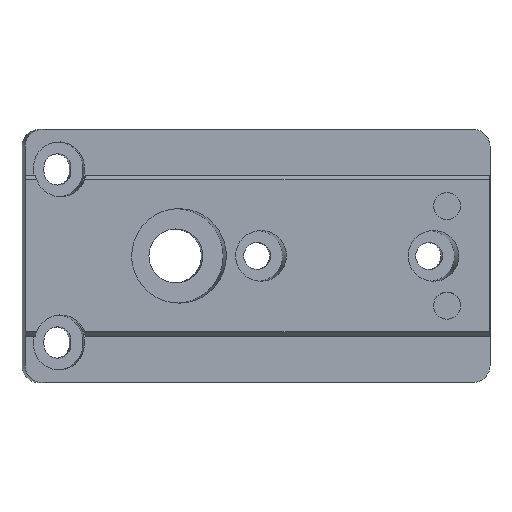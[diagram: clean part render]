
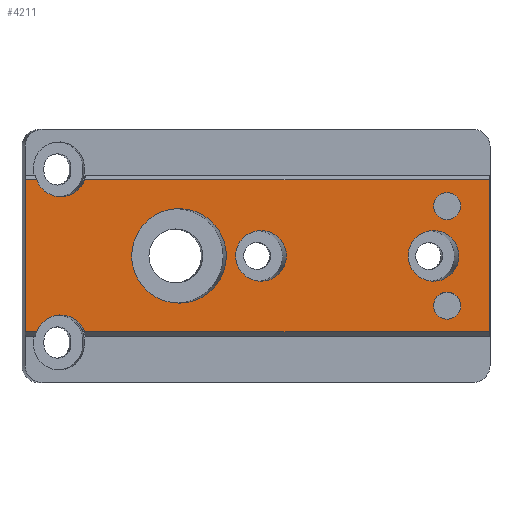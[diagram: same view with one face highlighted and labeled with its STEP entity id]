
A CAD part, top view. The second image highlights one B-rep face of the part: STEP entity #4211.
In plain terms, the highlighted planar face has unit normal (0, 0, 1).
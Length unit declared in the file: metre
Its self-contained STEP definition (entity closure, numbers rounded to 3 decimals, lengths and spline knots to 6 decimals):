
#204=ELLIPSE('',#4481,0.005608,0.0056);
#205=ELLIPSE('',#4482,0.003004,0.003);
#206=ELLIPSE('',#4483,0.003004,0.003);
#207=ELLIPSE('',#4486,0.003004,0.003);
#208=ELLIPSE('',#4487,0.003004,0.003);
#288=CIRCLE('',#4484,0.0016);
#289=CIRCLE('',#4485,0.0016);
#383=ORIENTED_EDGE('',*,*,#1665,.T.);
#384=ORIENTED_EDGE('',*,*,#1666,.T.);
#385=ORIENTED_EDGE('',*,*,#1667,.T.);
#386=ORIENTED_EDGE('',*,*,#1668,.T.);
#387=ORIENTED_EDGE('',*,*,#1669,.T.);
#388=ORIENTED_EDGE('',*,*,#1670,.F.);
#389=ORIENTED_EDGE('',*,*,#1671,.T.);
#390=ORIENTED_EDGE('',*,*,#1672,.F.);
#391=ORIENTED_EDGE('',*,*,#1673,.T.);
#392=ORIENTED_EDGE('',*,*,#1674,.F.);
#393=ORIENTED_EDGE('',*,*,#1675,.T.);
#394=ORIENTED_EDGE('',*,*,#1676,.T.);
#395=ORIENTED_EDGE('',*,*,#1677,.T.);
#1665=EDGE_CURVE('',#2306,#2306,#204,.T.);
#1666=EDGE_CURVE('',#2307,#2307,#205,.T.);
#1667=EDGE_CURVE('',#2308,#2308,#206,.T.);
#1668=EDGE_CURVE('',#2309,#2309,#288,.T.);
#1669=EDGE_CURVE('',#2310,#2310,#289,.T.);
#1670=EDGE_CURVE('',#2311,#2312,#207,.F.);
#1671=EDGE_CURVE('',#2311,#2313,#2719,.T.);
#1672=EDGE_CURVE('',#2314,#2313,#2720,.T.);
#1673=EDGE_CURVE('',#2314,#2315,#2721,.T.);
#1674=EDGE_CURVE('',#2316,#2315,#208,.F.);
#1675=EDGE_CURVE('',#2316,#2317,#2722,.T.);
#1676=EDGE_CURVE('',#2317,#2318,#2723,.T.);
#1677=EDGE_CURVE('',#2318,#2312,#2724,.T.);
#2306=VERTEX_POINT('',#5772);
#2307=VERTEX_POINT('',#5774);
#2308=VERTEX_POINT('',#5776);
#2309=VERTEX_POINT('',#5778);
#2310=VERTEX_POINT('',#5780);
#2311=VERTEX_POINT('',#5782);
#2312=VERTEX_POINT('',#5783);
#2313=VERTEX_POINT('',#5785);
#2314=VERTEX_POINT('',#5787);
#2315=VERTEX_POINT('',#5789);
#2316=VERTEX_POINT('',#5791);
#2317=VERTEX_POINT('',#5793);
#2318=VERTEX_POINT('',#5795);
#2719=LINE('',#5784,#3136);
#2720=LINE('',#5786,#3137);
#2721=LINE('',#5788,#3138);
#2722=LINE('',#5792,#3139);
#2723=LINE('',#5794,#3140);
#2724=LINE('',#5796,#3141);
#3136=VECTOR('',#4809,1.);
#3137=VECTOR('',#4810,1.);
#3138=VECTOR('',#4811,1.);
#3139=VECTOR('',#4814,1.);
#3140=VECTOR('',#4815,1.);
#3141=VECTOR('',#4816,1.);
#3540=EDGE_LOOP('',(#383));
#3541=EDGE_LOOP('',(#384));
#3542=EDGE_LOOP('',(#385));
#3543=EDGE_LOOP('',(#386));
#3544=EDGE_LOOP('',(#387));
#3545=EDGE_LOOP('',(#388,#389,#390,#391,#392,#393,#394,#395));
#3813=FACE_BOUND('',#3540,.T.);
#3814=FACE_BOUND('',#3541,.T.);
#3815=FACE_BOUND('',#3542,.T.);
#3816=FACE_BOUND('',#3543,.T.);
#3817=FACE_BOUND('',#3544,.T.);
#3818=FACE_BOUND('',#3545,.T.);
#4078=PLANE('',#4480);
#4211=ADVANCED_FACE('',(#3813,#3814,#3815,#3816,#3817,#3818),#4078,.F.);
#4480=AXIS2_PLACEMENT_3D('',#5770,#4795,#4796);
#4481=AXIS2_PLACEMENT_3D('',#5771,#4797,#4798);
#4482=AXIS2_PLACEMENT_3D('',#5773,#4799,#4800);
#4483=AXIS2_PLACEMENT_3D('',#5775,#4801,#4802);
#4484=AXIS2_PLACEMENT_3D('',#5777,#4803,#4804);
#4485=AXIS2_PLACEMENT_3D('',#5779,#4805,#4806);
#4486=AXIS2_PLACEMENT_3D('',#5781,#4807,#4808);
#4487=AXIS2_PLACEMENT_3D('',#5790,#4812,#4813);
#4795=DIRECTION('',(0.,0.,-1.));
#4796=DIRECTION('',(-1.,0.,0.));
#4797=DIRECTION('',(0.,0.,-1.));
#4798=DIRECTION('',(-1.,0.,0.));
#4799=DIRECTION('',(0.,0.,-1.));
#4800=DIRECTION('',(-1.,0.,0.));
#4801=DIRECTION('',(0.,0.,-1.));
#4802=DIRECTION('',(-1.,0.,0.));
#4803=DIRECTION('',(0.,0.,-1.));
#4804=DIRECTION('',(-1.,0.,0.));
#4805=DIRECTION('',(0.,0.,-1.));
#4806=DIRECTION('',(-1.,0.,0.));
#4807=DIRECTION('',(0.,0.,-1.));
#4808=DIRECTION('',(-1.,0.,0.));
#4809=DIRECTION('',(1.,0.,0.));
#4810=DIRECTION('',(0.,-1.,0.));
#4811=DIRECTION('',(-1.,0.,0.));
#4812=DIRECTION('',(0.,0.,-1.));
#4813=DIRECTION('',(-1.,0.,0.));
#4814=DIRECTION('',(-1.,0.,0.));
#4815=DIRECTION('',(0.,-1.,0.));
#4816=DIRECTION('',(1.,0.,0.));
#5770=CARTESIAN_POINT('',(0.055,0.,0.0041));
#5771=CARTESIAN_POINT('',(0.01824,0.,0.0041));
#5772=CARTESIAN_POINT('',(0.012632,0.,0.0041));
#5773=CARTESIAN_POINT('',(0.048381,0.,0.0041));
#5774=CARTESIAN_POINT('',(0.045377,0.,0.0041));
#5775=CARTESIAN_POINT('',(0.027953,0.,0.0041));
#5776=CARTESIAN_POINT('',(0.024949,0.,0.0041));
#5777=CARTESIAN_POINT('',(0.05,0.0059,0.0041));
#5778=CARTESIAN_POINT('',(0.0484,0.0059,0.0041));
#5779=CARTESIAN_POINT('',(0.05,-0.0059,0.0041));
#5780=CARTESIAN_POINT('',(0.0484,-0.0059,0.0041));
#5781=CARTESIAN_POINT('',(0.00422,-0.01,0.0041));
#5782=CARTESIAN_POINT('',(0.007054,-0.009004,0.0041));
#5783=CARTESIAN_POINT('',(0.001386,-0.009004,0.0041));
#5784=CARTESIAN_POINT('',(0.055,-0.009004,0.0041));
#5785=CARTESIAN_POINT('',(0.055,-0.009004,0.0041));
#5786=CARTESIAN_POINT('',(0.055,0.,0.0041));
#5787=CARTESIAN_POINT('',(0.055,0.009004,0.0041));
#5788=CARTESIAN_POINT('',(0.,0.009004,0.0041));
#5789=CARTESIAN_POINT('',(0.007054,0.009004,0.0041));
#5790=CARTESIAN_POINT('',(0.00422,0.01,0.0041));
#5791=CARTESIAN_POINT('',(0.001386,0.009004,0.0041));
#5792=CARTESIAN_POINT('',(0.,0.009004,0.0041));
#5793=CARTESIAN_POINT('',(0.,0.009004,0.0041));
#5794=CARTESIAN_POINT('',(0.,0.,0.0041));
#5795=CARTESIAN_POINT('',(0.,-0.009004,0.0041));
#5796=CARTESIAN_POINT('',(0.055,-0.009004,0.0041));
